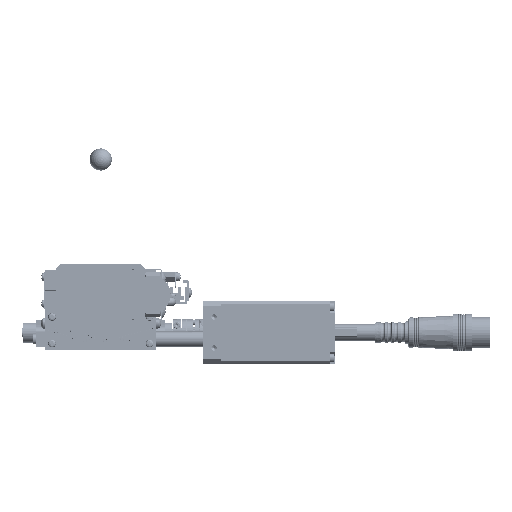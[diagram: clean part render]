
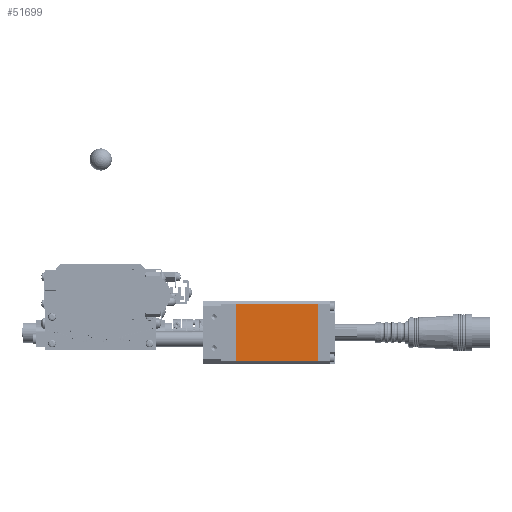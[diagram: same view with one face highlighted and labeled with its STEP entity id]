
A CAD part, front view. The second image highlights one B-rep face of the part: STEP entity #51699.
In plain terms, the highlighted planar face has unit normal (0, -1, 0).
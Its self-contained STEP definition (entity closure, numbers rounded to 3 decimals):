
#4888 = DIRECTION ( 'NONE',  ( 0., 0., -1. ) ) ;
#13065 = VERTEX_POINT ( 'NONE', #20721 ) ;
#13849 = EDGE_CURVE ( 'NONE', #113876, #22419, #114837, .T. ) ;
#15818 = VECTOR ( 'NONE', #22995, 1000. ) ;
#17640 = EDGE_LOOP ( 'NONE', ( #63152, #120512, #105584, #151106 ) ) ;
#19591 = DIRECTION ( 'NONE',  ( 0., 0., 1. ) ) ;
#20721 = CARTESIAN_POINT ( 'NONE',  ( 61., -14., 20.845 ) ) ;
#22419 = VERTEX_POINT ( 'NONE', #65355 ) ;
#22995 = DIRECTION ( 'NONE',  ( -1., 0., 0. ) ) ;
#23352 = FACE_OUTER_BOUND ( 'NONE', #17640, .T. ) ;
#24305 = LINE ( 'NONE', #83173, #133425 ) ;
#37052 = EDGE_CURVE ( 'NONE', #70059, #13065, #162723, .T. ) ;
#38242 = VECTOR ( 'NONE', #4888, 1000. ) ;
#51699 = ADVANCED_FACE ( 'NONE', ( #23352 ), #133203, .T. ) ;
#52619 = CARTESIAN_POINT ( 'NONE',  ( 97.99, -14., -4.845 ) ) ;
#61333 = DIRECTION ( 'NONE',  ( -1., 0., 0. ) ) ;
#63152 = ORIENTED_EDGE ( 'NONE', *, *, #87329, .F. ) ;
#65355 = CARTESIAN_POINT ( 'NONE',  ( 61., -14., -4.845 ) ) ;
#69951 = CARTESIAN_POINT ( 'NONE',  ( 97.99, -14., 20.845 ) ) ;
#70059 = VERTEX_POINT ( 'NONE', #69951 ) ;
#74863 = CARTESIAN_POINT ( 'NONE',  ( 105.5, -14., 20.845 ) ) ;
#76165 = AXIS2_PLACEMENT_3D ( 'NONE', #161342, #108375, #19591 ) ;
#83173 = CARTESIAN_POINT ( 'NONE',  ( 61., -14., -4.845 ) ) ;
#87329 = EDGE_CURVE ( 'NONE', #70059, #113876, #155383, .T. ) ;
#95078 = DIRECTION ( 'NONE',  ( 0., 0., -1. ) ) ;
#100430 = CARTESIAN_POINT ( 'NONE',  ( 105.5, -14., -4.845 ) ) ;
#105584 = ORIENTED_EDGE ( 'NONE', *, *, #124743, .T. ) ;
#108317 = CARTESIAN_POINT ( 'NONE',  ( 97.99, -14., -4.845 ) ) ;
#108375 = DIRECTION ( 'NONE',  ( 0., -1., 0. ) ) ;
#113876 = VERTEX_POINT ( 'NONE', #52619 ) ;
#114837 = LINE ( 'NONE', #100430, #15818 ) ;
#120512 = ORIENTED_EDGE ( 'NONE', *, *, #37052, .T. ) ;
#124743 = EDGE_CURVE ( 'NONE', #13065, #22419, #24305, .T. ) ;
#128470 = VECTOR ( 'NONE', #61333, 1000. ) ;
#133203 = PLANE ( 'NONE',  #76165 ) ;
#133425 = VECTOR ( 'NONE', #95078, 1000. ) ;
#151106 = ORIENTED_EDGE ( 'NONE', *, *, #13849, .F. ) ;
#155383 = LINE ( 'NONE', #108317, #38242 ) ;
#161342 = CARTESIAN_POINT ( 'NONE',  ( 105.5, -14., -4.845 ) ) ;
#162723 = LINE ( 'NONE', #74863, #128470 ) ;
